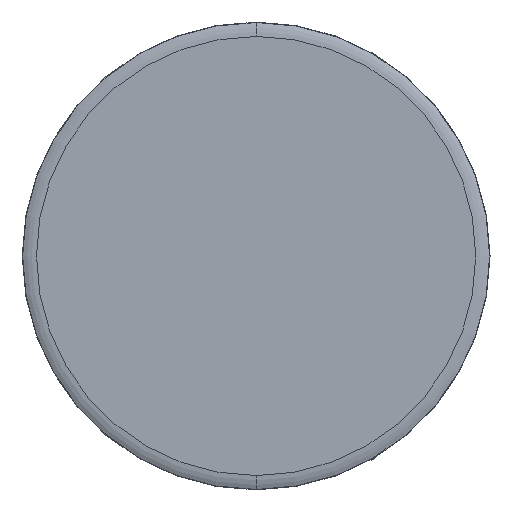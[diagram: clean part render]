
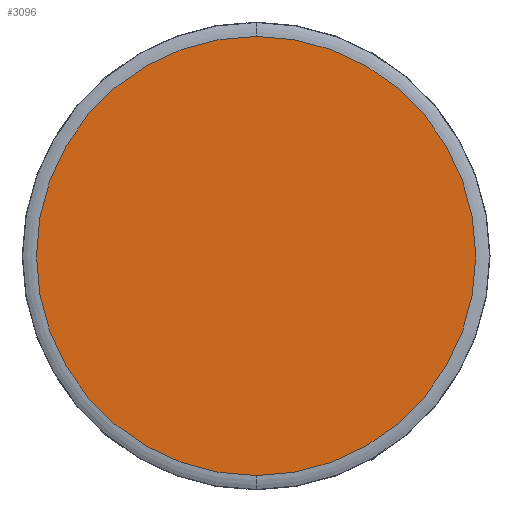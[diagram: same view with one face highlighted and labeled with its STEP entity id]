
A CAD part, top view. The second image highlights one B-rep face of the part: STEP entity #3096.
In plain terms, the highlighted planar face has unit normal (0, 0, 1).
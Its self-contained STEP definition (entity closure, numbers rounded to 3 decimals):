
#31 = EDGE_LOOP ( 'NONE', ( #2456, #1419 ) ) ;
#38 = CIRCLE ( 'NONE', #6855, 586.842 ) ;
#126 = CARTESIAN_POINT ( 'NONE',  ( 3591.487, 2129.554, 583.668 ) ) ;
#209 = DIRECTION ( 'NONE',  ( 0., 1., 0. ) ) ;
#267 = VERTEX_POINT ( 'NONE', #4066 ) ;
#355 = CARTESIAN_POINT ( 'NONE',  ( 3591.487, 2716.396, 583.668 ) ) ;
#769 = EDGE_CURVE ( 'Defeatured_0_207+Defeatured_0_205+Defeatured_0_205+Defeatured_0_205', #1564, #267, #6370, .T. ) ;
#1419 = ORIENTED_EDGE ( 'NONE', *, *, #3620, .T. ) ;
#1564 = VERTEX_POINT ( 'NONE', #355 ) ;
#2456 = ORIENTED_EDGE ( 'NONE', *, *, #769, .T. ) ;
#2704 = FACE_OUTER_BOUND ( 'NONE', #31, .T. ) ;
#3028 = DIRECTION ( 'NONE',  ( 0., 0., 1. ) ) ;
#3065 = CARTESIAN_POINT ( 'NONE',  ( 3591.487, 2129.554, 583.668 ) ) ;
#3096 = ADVANCED_FACE ( 'Defeatured_0_207', ( #2704 ), #6288, .F. ) ;
#3620 = EDGE_CURVE ( 'Defeatured_0_207+Defeatured_0_205+Defeatured_0_205+Defeatured_0_205', #267, #1564, #38, .T. ) ;
#4066 = CARTESIAN_POINT ( 'NONE',  ( 3591.487, 1542.712, 583.668 ) ) ;
#4765 = DIRECTION ( 'NONE',  ( 0., 1., 0. ) ) ;
#6288 = PLANE ( 'NONE',  #6844 ) ;
#6370 = CIRCLE ( 'NONE', #8022, 586.842 ) ;
#6844 = AXIS2_PLACEMENT_3D ( 'NONE', #7045, #9068, #4765 ) ;
#6855 = AXIS2_PLACEMENT_3D ( 'NONE', #126, #3028, #8827 ) ;
#7045 = CARTESIAN_POINT ( 'NONE',  ( 3591.487, 2129.554, 583.668 ) ) ;
#8022 = AXIS2_PLACEMENT_3D ( 'NONE', #3065, #8717, #209 ) ;
#8717 = DIRECTION ( 'NONE',  ( 0., 0., 1. ) ) ;
#8827 = DIRECTION ( 'NONE',  ( 0., 1., 0. ) ) ;
#9068 = DIRECTION ( 'NONE',  ( 0., 0., -1. ) ) ;
